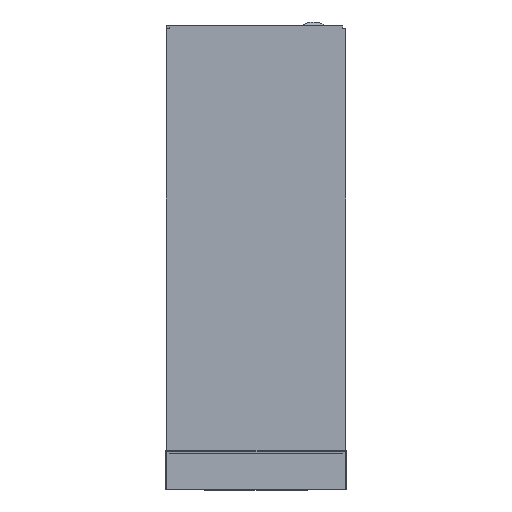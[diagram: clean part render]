
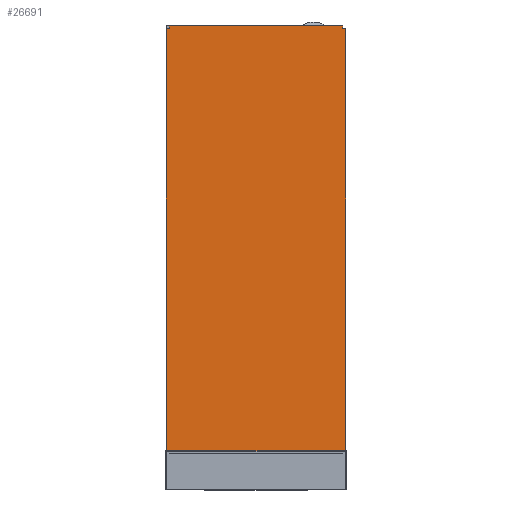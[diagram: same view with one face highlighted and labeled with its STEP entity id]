
A CAD part, left-side view. The second image highlights one B-rep face of the part: STEP entity #26691.
In plain terms, the highlighted planar face has unit normal (-1, 0, 0).
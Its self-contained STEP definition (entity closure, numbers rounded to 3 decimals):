
#26405=CARTESIAN_POINT('',(4.507,-787.008,176.06));
#26406=VERTEX_POINT('',#26405);
#26413=CARTESIAN_POINT('',(4.507,-787.008,163.06));
#26414=VERTEX_POINT('',#26413);
#26415=CARTESIAN_POINT('',(4.507,-787.008,163.06));
#26416=DIRECTION('',(0.0,0.0,1.0));
#26417=VECTOR('',#26416,13.);
#26418=LINE('',#26415,#26417);
#26419=EDGE_CURVE('',#26414,#26406,#26418,.T.);
#26435=CARTESIAN_POINT('',(4.507,-801.008,176.06));
#26436=VERTEX_POINT('',#26435);
#26453=CARTESIAN_POINT('',(4.507,-801.008,2050.06));
#26454=VERTEX_POINT('',#26453);
#26461=CARTESIAN_POINT('',(4.507,-801.008,2050.06));
#26462=DIRECTION('',(0.0,0.0,-1.0));
#26463=VECTOR('',#26462,1874.);
#26464=LINE('',#26461,#26463);
#26465=EDGE_CURVE('',#26454,#26436,#26464,.T.);
#26483=CARTESIAN_POINT('',(4.507,-801.008,176.06));
#26484=DIRECTION('',(0.0,1.0,0.0));
#26485=VECTOR('',#26484,14.0);
#26486=LINE('',#26483,#26485);
#26487=EDGE_CURVE('',#26436,#26406,#26486,.T.);
#26537=CARTESIAN_POINT('',(4.507,-17.007,163.06));
#26538=VERTEX_POINT('',#26537);
#26539=CARTESIAN_POINT('',(4.507,-17.007,176.06));
#26540=VERTEX_POINT('',#26539);
#26541=CARTESIAN_POINT('',(4.507,-17.007,163.06));
#26542=DIRECTION('',(0.0,0.0,1.0));
#26543=VECTOR('',#26542,13.);
#26544=LINE('',#26541,#26543);
#26545=EDGE_CURVE('',#26538,#26540,#26544,.T.);
#26577=CARTESIAN_POINT('',(4.507,-3.007,176.06));
#26578=VERTEX_POINT('',#26577);
#26579=CARTESIAN_POINT('',(4.507,-3.007,2050.06));
#26580=VERTEX_POINT('',#26579);
#26581=CARTESIAN_POINT('',(4.507,-3.007,176.06));
#26582=DIRECTION('',(0.0,0.0,1.0));
#26583=VECTOR('',#26582,1874.);
#26584=LINE('',#26581,#26583);
#26585=EDGE_CURVE('',#26578,#26580,#26584,.T.);
#26618=CARTESIAN_POINT('',(4.507,-3.007,176.06));
#26619=DIRECTION('',(0.0,-1.0,0.0));
#26620=VECTOR('',#26619,14.);
#26621=LINE('',#26618,#26620);
#26622=EDGE_CURVE('',#26578,#26540,#26621,.T.);
#26634=CARTESIAN_POINT('',(4.507,-1907.625,161.06));
#26635=DIRECTION('',(-1.0,0.0,0.0));
#26636=DIRECTION('',(0.0,-1.0,0.0));
#26637=AXIS2_PLACEMENT_3D('',#26634,#26635,#26636);
#26638=PLANE('',#26637);
#26639=CARTESIAN_POINT('',(4.507,-17.007,163.06));
#26640=DIRECTION('',(0.0,-1.0,0.0));
#26641=VECTOR('',#26640,770.);
#26642=LINE('',#26639,#26641);
#26643=EDGE_CURVE('',#26538,#26414,#26642,.T.);
#26644=ORIENTED_EDGE('',*,*,#26643,.T.);
#26645=ORIENTED_EDGE('',*,*,#26419,.T.);
#26646=ORIENTED_EDGE('',*,*,#26487,.F.);
#26647=ORIENTED_EDGE('',*,*,#26465,.F.);
#26648=CARTESIAN_POINT('',(4.507,-787.008,2050.06));
#26649=VERTEX_POINT('',#26648);
#26650=CARTESIAN_POINT('',(4.507,-801.008,2050.06));
#26651=DIRECTION('',(0.0,1.0,0.0));
#26652=VECTOR('',#26651,14.0);
#26653=LINE('',#26650,#26652);
#26654=EDGE_CURVE('',#26454,#26649,#26653,.T.);
#26655=ORIENTED_EDGE('',*,*,#26654,.T.);
#26656=CARTESIAN_POINT('',(4.507,-787.008,2063.06));
#26657=VERTEX_POINT('',#26656);
#26658=CARTESIAN_POINT('',(4.507,-787.008,2063.06));
#26659=DIRECTION('',(0.0,0.0,-1.0));
#26660=VECTOR('',#26659,13.0);
#26661=LINE('',#26658,#26660);
#26662=EDGE_CURVE('',#26657,#26649,#26661,.T.);
#26663=ORIENTED_EDGE('',*,*,#26662,.F.);
#26664=CARTESIAN_POINT('',(4.507,-17.007,2063.06));
#26665=VERTEX_POINT('',#26664);
#26666=CARTESIAN_POINT('',(4.507,-17.007,2063.06));
#26667=DIRECTION('',(0.0,-1.0,0.0));
#26668=VECTOR('',#26667,770.);
#26669=LINE('',#26666,#26668);
#26670=EDGE_CURVE('',#26665,#26657,#26669,.T.);
#26671=ORIENTED_EDGE('',*,*,#26670,.F.);
#26672=CARTESIAN_POINT('',(4.507,-17.007,2050.06));
#26673=VERTEX_POINT('',#26672);
#26674=CARTESIAN_POINT('',(4.507,-17.007,2063.06));
#26675=DIRECTION('',(0.0,0.0,-1.0));
#26676=VECTOR('',#26675,13.0);
#26677=LINE('',#26674,#26676);
#26678=EDGE_CURVE('',#26665,#26673,#26677,.T.);
#26679=ORIENTED_EDGE('',*,*,#26678,.T.);
#26680=CARTESIAN_POINT('',(4.507,-3.007,2050.06));
#26681=DIRECTION('',(0.0,-1.0,0.0));
#26682=VECTOR('',#26681,14.0);
#26683=LINE('',#26680,#26682);
#26684=EDGE_CURVE('',#26580,#26673,#26683,.T.);
#26685=ORIENTED_EDGE('',*,*,#26684,.F.);
#26686=ORIENTED_EDGE('',*,*,#26585,.F.);
#26687=ORIENTED_EDGE('',*,*,#26622,.T.);
#26688=ORIENTED_EDGE('',*,*,#26545,.F.);
#26689=EDGE_LOOP('',(#26644,#26645,#26646,#26647,#26655,#26663,#26671,#26679,#26685,#26686,#26687,#26688));
#26690=FACE_OUTER_BOUND('',#26689,.T.);
#26691=ADVANCED_FACE('',(#26690),#26638,.T.);
